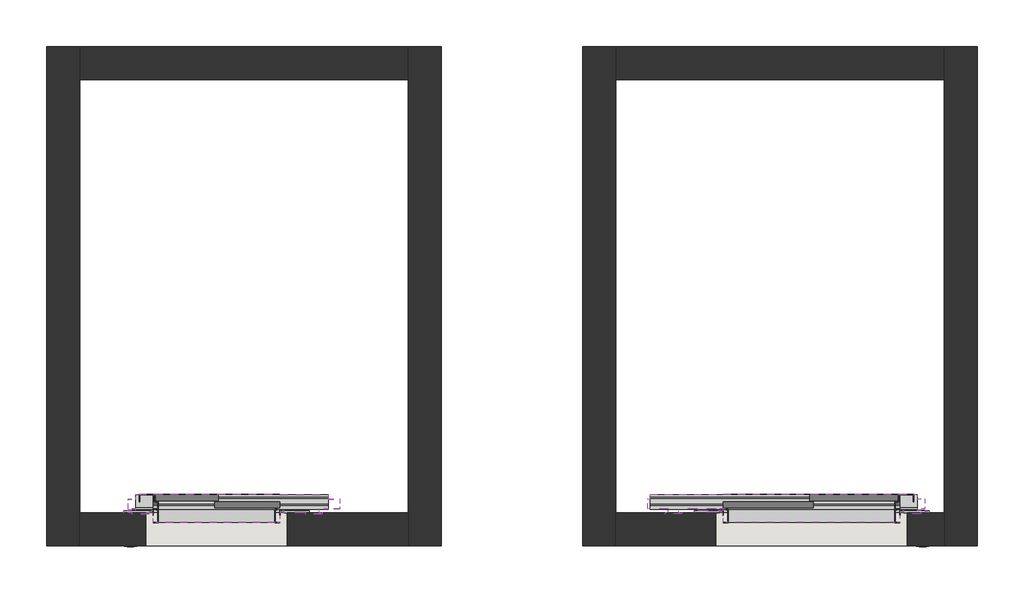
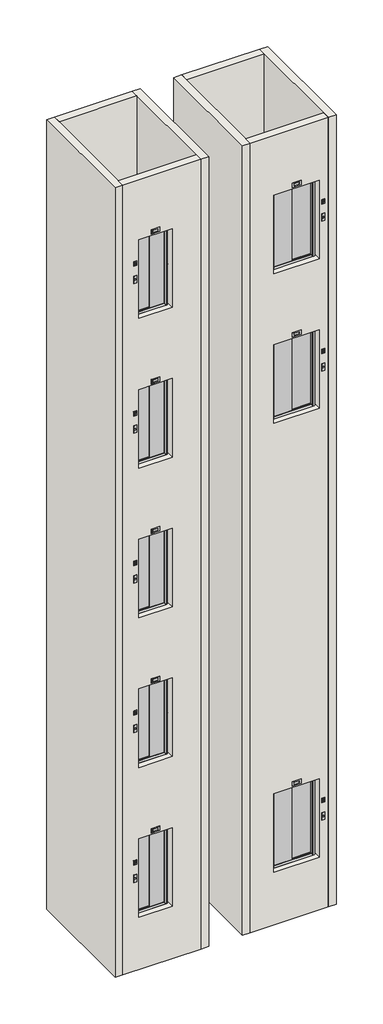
# One storey, incomplete: 10 proxies, 8 walls.
"""IFC4 building model written with IfcOpenShell, lengths in millimetres."""

from ifc_helpers import new_model, si_unit, frame, origin, place, context, project, spatial, polyline, outline, extrude, faceted_brep, transform, mapped, element, save
from components import generic_models_df95d3e8, generic_models_b9712135

model = new_model("IFC4")

# Units and contexts
model_context = context("Model", 3, world=origin())
ifc_project = project(units=[si_unit("LENGTHUNIT", "METRE", prefix="MILLI")], contexts=[model_context])

# Site, building, storey
site = spatial("IfcSite", under=ifc_project)
building = spatial("IfcBuilding", under=site)
storey = spatial("IfcBuildingStorey", under=building, Name="Уровень 1", Elevation=0.0)

# Proxies
placement = place(None, origin())
generic_models_shape = generic_models_df95d3e8(model_context)
element("IfcBuildingElementProxy", 1, Name="SHLZ_Дверь_0621Е_0411 : SHLZ_Дверь_0621Е_0411", ObjectType="SHLZ_Дверь_0621Е_0411 : SHLZ_Дверь_0621Е_0411", at=placement, inside=storey, context=model_context, shape_type="MappedRepresentation", body=[
    mapped(generic_models_shape, transform((5959.8086741, -3917.209494, 12000.0), x_axis=(1.0, 0.0, 0.0), y_axis=(0.0, 1.0, 0.0), z_axis=(0.0, 0.0, 1.0))),
])
element("IfcBuildingElementProxy", 2, Name="SHLZ_Дверь_0621Е_0411 : SHLZ_Дверь_0621Е_0411", ObjectType="SHLZ_Дверь_0621Е_0411 : SHLZ_Дверь_0621Е_0411", at=placement, inside=storey, context=model_context, shape_type="MappedRepresentation", body=[
    mapped(generic_models_shape, transform((5959.8086741, -3917.209494, 16000.0), x_axis=(1.0, 0.0, 0.0), y_axis=(0.0, 1.0, 0.0), z_axis=(0.0, 0.0, 1.0))),
])
element("IfcBuildingElementProxy", 3, Name="SHLZ_Дверь_0621Е_0411 : SHLZ_Дверь_0621Е_0411", ObjectType="SHLZ_Дверь_0621Е_0411 : SHLZ_Дверь_0621Е_0411", at=placement, inside=storey, context=model_context, shape_type="MappedRepresentation", body=[
    mapped(generic_models_shape, transform((5959.8086741, -3917.209494, 0.0), x_axis=(1.0, 0.0, 0.0), y_axis=(0.0, 1.0, 0.0), z_axis=(0.0, 0.0, 1.0))),
])
element("IfcBuildingElementProxy", 4, Name="SHLZ_Дверь_0621Е_0411 : SHLZ_Дверь_0621Е_0411", ObjectType="SHLZ_Дверь_0621Е_0411 : SHLZ_Дверь_0621Е_0411", at=placement, inside=storey, context=model_context, shape_type="MappedRepresentation", body=[
    mapped(generic_models_shape, transform((5959.8086741, -3917.209494, 16000.0), x_axis=(1.0, 0.0, 0.0), y_axis=(0.0, 1.0, 0.0), z_axis=(0.0, 0.0, 1.0))),
])
generic_models_2_shape = generic_models_b9712135(model_context)
element("IfcBuildingElementProxy", 5, Name="SHLZ_Дверь_0621Е_0411 : SHLZ_Дверь_0621Е_0411", ObjectType="SHLZ_Дверь_0621Е_0411 : SHLZ_Дверь_0621Е_0411", at=placement, inside=storey, context=model_context, shape_type="MappedRepresentation", body=[
    mapped(generic_models_2_shape, transform((2387.9856165, -3917.209494, 4000.0), x_axis=(1.0, 0.0, 0.0), y_axis=(0.0, 1.0, 0.0), z_axis=(0.0, 0.0, 1.0))),
])
element("IfcBuildingElementProxy", 6, Name="SHLZ_Дверь_0621Е_0411 : SHLZ_Дверь_0621Е_0411", ObjectType="SHLZ_Дверь_0621Е_0411 : SHLZ_Дверь_0621Е_0411", at=placement, inside=storey, context=model_context, shape_type="MappedRepresentation", body=[
    mapped(generic_models_2_shape, transform((2387.9856165, -3917.209494, 8000.0), x_axis=(1.0, 0.0, 0.0), y_axis=(0.0, 1.0, 0.0), z_axis=(0.0, 0.0, 1.0))),
])
element("IfcBuildingElementProxy", 7, Name="SHLZ_Дверь_0621Е_0411 : SHLZ_Дверь_0621Е_0411", ObjectType="SHLZ_Дверь_0621Е_0411 : SHLZ_Дверь_0621Е_0411", at=placement, inside=storey, context=model_context, shape_type="MappedRepresentation", body=[
    mapped(generic_models_2_shape, transform((2387.9856165, -3917.209494, 12000.0), x_axis=(1.0, 0.0, 0.0), y_axis=(0.0, 1.0, 0.0), z_axis=(0.0, 0.0, 1.0))),
])
element("IfcBuildingElementProxy", 8, Name="SHLZ_Дверь_0621Е_0411 : SHLZ_Дверь_0621Е_0411", ObjectType="SHLZ_Дверь_0621Е_0411 : SHLZ_Дверь_0621Е_0411", at=placement, inside=storey, context=model_context, shape_type="MappedRepresentation", body=[
    mapped(generic_models_2_shape, transform((2387.9856165, -3917.209494, 16000.0), x_axis=(1.0, 0.0, 0.0), y_axis=(0.0, 1.0, 0.0), z_axis=(0.0, 0.0, 1.0))),
])
element("IfcBuildingElementProxy", 9, Name="SHLZ_Дверь_0621Е_0411 : SHLZ_Дверь_0621Е_0411", ObjectType="SHLZ_Дверь_0621Е_0411 : SHLZ_Дверь_0621Е_0411", at=placement, inside=storey, context=model_context, shape_type="MappedRepresentation", body=[
    mapped(generic_models_2_shape, transform((2387.9856165, -3917.209494, 0.0), x_axis=(1.0, 0.0, 0.0), y_axis=(0.0, 1.0, 0.0), z_axis=(0.0, 0.0, 1.0))),
])
element("IfcBuildingElementProxy", 10, Name="SHLZ_Дверь_0621Е_0411 : SHLZ_Дверь_0621Е_0411", ObjectType="SHLZ_Дверь_0621Е_0411 : SHLZ_Дверь_0621Е_0411", at=placement, inside=storey, context=model_context, shape_type="MappedRepresentation", body=[
    mapped(generic_models_2_shape, transform((2387.9856165, -3917.209494, 16000.0), x_axis=(1.0, 0.0, 0.0), y_axis=(0.0, 1.0, 0.0), z_axis=(0.0, 0.0, 1.0))),
])

# Walls
element("IfcWall", 11, ObjectType="Типовой - 200мм", at=placement, inside=storey, context=model_context, shape_type="Brep", body=[
    faceted_brep([(3537.9856165, -1117.209494, -1400.0), (3537.9856165, -1317.209494, -1400.0), (3537.9856165, -3917.209494, -1400.0), (3537.9856165, -4117.209494, -1400.0), (3537.9856165, -4117.209494, 19700.0), (3537.9856165, -3917.209494, 19700.0), (3537.9856165, -1317.209494, 19700.0), (3537.9856165, -1117.209494, 19700.0), (3737.9856165, -1117.209494, -1400.0), (3737.9856165, -1117.209494, 19700.0), (3737.9856165, -4117.209494, 19700.0), (3737.9856165, -4117.209494, -1400.0)], [[[0, 1, 2, 3, 4, 5, 6, 7]], [[8, 9, 10, 11]], [[3, 2, 1, 0, 8, 11]], [[4, 3, 11, 10]], [[0, 7, 9, 8]], [[7, 6, 5, 4, 10, 9]]]),
])
element("IfcWall", 12, ObjectType="Типовой - 200мм", at=placement, inside=storey, context=model_context, shape_type="Brep", body=[
    faceted_brep([(1367.9856165, -1117.209494, -1400.0), (1367.9856165, -4117.209494, -1400.0), (1367.9856165, -4117.209494, 19700.0), (1367.9856165, -1117.209494, 19700.0), (1567.9856165, -1117.209494, -1400.0), (1567.9856165, -1117.209494, 19700.0), (1567.9856165, -1317.209494, 19700.0), (1567.9856165, -3917.209494, 19700.0), (1567.9856165, -4117.209494, 19700.0), (1567.9856165, -4117.209494, -1400.0), (1567.9856165, -3917.209494, -1400.0), (1567.9856165, -1317.209494, -1400.0)], [[[0, 1, 2, 3]], [[4, 5, 6, 7, 8, 9, 10, 11]], [[1, 0, 4, 11, 10, 9]], [[2, 1, 9, 8]], [[0, 3, 5, 4]], [[3, 2, 8, 7, 6, 5]]]),
])
element("IfcWall", 13, ObjectType="Типовой - 200мм", at=placement, inside=storey, context=model_context, shape_type="Brep", body=[
    faceted_brep([(1567.9856165, -4117.209494, -1400.0), (3537.9856165, -4117.209494, -1400.0), (3537.9856165, -4117.209494, 19700.0), (1567.9856165, -4117.209494, 19700.0), (2297.9856165, -4117.209494, 6250.0), (2477.9856165, -4117.209494, 6250.0), (2477.9856165, -4117.209494, 6150.0), (2297.9856165, -4117.209494, 6150.0), (1851.6856165, -4117.209494, 5055.0), (1851.6856165, -4117.209494, 5095.0), (1891.6856165, -4117.209494, 5095.0), (1891.6856165, -4117.209494, 5055.0), (1851.6856165, -4117.209494, 5520.0), (1891.6856165, -4117.209494, 5520.0), (1891.6856165, -4117.209494, 5480.0), (1851.6856165, -4117.209494, 5480.0), (2812.9856165, -4117.209494, 4000.0), (1962.9856165, -4117.209494, 4000.0), (1962.9856165, -4117.209494, 6100.0), (2812.9856165, -4117.209494, 6100.0), (2297.9856165, -4117.209494, 10250.0), (2477.9856165, -4117.209494, 10250.0), (2477.9856165, -4117.209494, 10150.0), (2297.9856165, -4117.209494, 10150.0), (1851.6856165, -4117.209494, 9055.0), (1851.6856165, -4117.209494, 9095.0), (1891.6856165, -4117.209494, 9095.0), (1891.6856165, -4117.209494, 9055.0), (1851.6856165, -4117.209494, 9520.0), (1891.6856165, -4117.209494, 9520.0), (1891.6856165, -4117.209494, 9480.0), (1851.6856165, -4117.209494, 9480.0), (2812.9856165, -4117.209494, 8000.0), (1962.9856165, -4117.209494, 8000.0), (1962.9856165, -4117.209494, 10100.0), (2812.9856165, -4117.209494, 10100.0), (2297.9856165, -4117.209494, 14250.0), (2477.9856165, -4117.209494, 14250.0), (2477.9856165, -4117.209494, 14150.0), (2297.9856165, -4117.209494, 14150.0), (1851.6856165, -4117.209494, 13055.0), (1851.6856165, -4117.209494, 13095.0), (1891.6856165, -4117.209494, 13095.0), (1891.6856165, -4117.209494, 13055.0), (1851.6856165, -4117.209494, 13520.0), (1891.6856165, -4117.209494, 13520.0), (1891.6856165, -4117.209494, 13480.0), (1851.6856165, -4117.209494, 13480.0), (2812.9856165, -4117.209494, 12000.0), (1962.9856165, -4117.209494, 12000.0), (1962.9856165, -4117.209494, 14100.0), (2812.9856165, -4117.209494, 14100.0), (2297.9856165, -4117.209494, 18250.0), (2477.9856165, -4117.209494, 18250.0), (2477.9856165, -4117.209494, 18150.0), (2297.9856165, -4117.209494, 18150.0), (1851.6856165, -4117.209494, 17055.0), (1851.6856165, -4117.209494, 17095.0), (1891.6856165, -4117.209494, 17095.0), (1891.6856165, -4117.209494, 17055.0), (1851.6856165, -4117.209494, 17520.0), (1891.6856165, -4117.209494, 17520.0), (1891.6856165, -4117.209494, 17480.0), (1851.6856165, -4117.209494, 17480.0), (2812.9856165, -4117.209494, 16000.0), (1962.9856165, -4117.209494, 16000.0), (1962.9856165, -4117.209494, 18100.0), (2812.9856165, -4117.209494, 18100.0), (2297.9856165, -4117.209494, 2250.0), (2477.9856165, -4117.209494, 2250.0), (2477.9856165, -4117.209494, 2150.0), (2297.9856165, -4117.209494, 2150.0), (1851.6856165, -4117.209494, 1055.0), (1851.6856165, -4117.209494, 1095.0), (1891.6856165, -4117.209494, 1095.0), (1891.6856165, -4117.209494, 1055.0), (1851.6856165, -4117.209494, 1520.0), (1891.6856165, -4117.209494, 1520.0), (1891.6856165, -4117.209494, 1480.0), (1851.6856165, -4117.209494, 1480.0), (2812.9856165, -4117.209494, 0.0), (1962.9856165, -4117.209494, 0.0), (1962.9856165, -4117.209494, 2100.0), (2812.9856165, -4117.209494, 2100.0), (3537.9856165, -3917.209494, -1400.0), (1567.9856165, -3917.209494, -1400.0), (1567.9856165, -3917.209494, 19700.0), (3537.9856165, -3917.209494, 19700.0), (2407.9856165, -3917.209494, 6180.0), (2407.9856165, -3917.209494, 6220.0), (2367.9856165, -3917.209494, 6220.0), (2367.9856165, -3917.209494, 6180.0), (1851.6856165, -3917.209494, 5095.0), (1851.6856165, -3917.209494, 5055.0), (1891.6856165, -3917.209494, 5055.0), (1891.6856165, -3917.209494, 5095.0), (1891.6856165, -3917.209494, 5520.0), (1851.6856165, -3917.209494, 5520.0), (1851.6856165, -3917.209494, 5480.0), (1891.6856165, -3917.209494, 5480.0), (1962.9856165, -3917.209494, 4000.0), (2037.9856165, -3917.209494, 4000.0), (2037.9856165, -3917.209494, 3970.0), (2737.9856165, -3917.209494, 3970.0), (2737.9856165, -3917.209494, 4000.0), (2812.9856165, -3917.209494, 4000.0), (2812.9856165, -3917.209494, 6100.0), (1962.9856165, -3917.209494, 6100.0), (2407.9856165, -3917.209494, 10180.0), (2407.9856165, -3917.209494, 10220.0), (2367.9856165, -3917.209494, 10220.0), (2367.9856165, -3917.209494, 10180.0), (1851.6856165, -3917.209494, 9095.0), (1851.6856165, -3917.209494, 9055.0), (1891.6856165, -3917.209494, 9055.0), (1891.6856165, -3917.209494, 9095.0), (1891.6856165, -3917.209494, 9520.0), (1851.6856165, -3917.209494, 9520.0), (1851.6856165, -3917.209494, 9480.0), (1891.6856165, -3917.209494, 9480.0), (1962.9856165, -3917.209494, 8000.0), (2037.9856165, -3917.209494, 8000.0), (2037.9856165, -3917.209494, 7970.0), (2737.9856165, -3917.209494, 7970.0), (2737.9856165, -3917.209494, 8000.0), (2812.9856165, -3917.209494, 8000.0), (2812.9856165, -3917.209494, 10100.0), (1962.9856165, -3917.209494, 10100.0), (2407.9856165, -3917.209494, 14180.0), (2407.9856165, -3917.209494, 14220.0), (2367.9856165, -3917.209494, 14220.0), (2367.9856165, -3917.209494, 14180.0), (1851.6856165, -3917.209494, 13095.0), (1851.6856165, -3917.209494, 13055.0), (1891.6856165, -3917.209494, 13055.0), (1891.6856165, -3917.209494, 13095.0), (1891.6856165, -3917.209494, 13520.0), (1851.6856165, -3917.209494, 13520.0), (1851.6856165, -3917.209494, 13480.0), (1891.6856165, -3917.209494, 13480.0), (1962.9856165, -3917.209494, 12000.0), (2037.9856165, -3917.209494, 12000.0), (2037.9856165, -3917.209494, 11970.0), (2737.9856165, -3917.209494, 11970.0), (2737.9856165, -3917.209494, 12000.0), (2812.9856165, -3917.209494, 12000.0), (2812.9856165, -3917.209494, 14100.0), (1962.9856165, -3917.209494, 14100.0), (2407.9856165, -3917.209494, 18180.0), (2407.9856165, -3917.209494, 18220.0), (2367.9856165, -3917.209494, 18220.0), (2367.9856165, -3917.209494, 18180.0), (1851.6856165, -3917.209494, 17095.0), (1851.6856165, -3917.209494, 17055.0), (1891.6856165, -3917.209494, 17055.0), (1891.6856165, -3917.209494, 17095.0), (1891.6856165, -3917.209494, 17520.0), (1851.6856165, -3917.209494, 17520.0), (1851.6856165, -3917.209494, 17480.0), (1891.6856165, -3917.209494, 17480.0), (1962.9856165, -3917.209494, 16000.0), (2037.9856165, -3917.209494, 16000.0), (2037.9856165, -3917.209494, 15970.0), (2737.9856165, -3917.209494, 15970.0), (2737.9856165, -3917.209494, 16000.0), (2812.9856165, -3917.209494, 16000.0), (2812.9856165, -3917.209494, 18100.0), (1962.9856165, -3917.209494, 18100.0), (2407.9856165, -3917.209494, 2180.0), (2407.9856165, -3917.209494, 2220.0), (2367.9856165, -3917.209494, 2220.0), (2367.9856165, -3917.209494, 2180.0), (1851.6856165, -3917.209494, 1095.0), (1851.6856165, -3917.209494, 1055.0), (1891.6856165, -3917.209494, 1055.0), (1891.6856165, -3917.209494, 1095.0), (1891.6856165, -3917.209494, 1520.0), (1851.6856165, -3917.209494, 1520.0), (1851.6856165, -3917.209494, 1480.0), (1891.6856165, -3917.209494, 1480.0), (1962.9856165, -3917.209494, 0.0), (2037.9856165, -3917.209494, 0.0), (2037.9856165, -3917.209494, -30.0), (2737.9856165, -3917.209494, -30.0), (2737.9856165, -3917.209494, 0.0), (2812.9856165, -3917.209494, 0.0), (2812.9856165, -3917.209494, 2100.0), (1962.9856165, -3917.209494, 2100.0), (2407.9856165, -4037.209494, 6180.0), (2407.9856165, -4037.209494, 6220.0), (2367.9856165, -4037.209494, 6220.0), (2367.9856165, -4037.209494, 6180.0), (2477.9856165, -4037.209494, 6250.0), (2297.9856165, -4037.209494, 6250.0), (2297.9856165, -4037.209494, 6150.0), (2477.9856165, -4037.209494, 6150.0), (2737.9856165, -3977.209494, 4000.0), (2037.9856165, -3977.209494, 4000.0), (2037.9856165, -3977.209494, 3970.0), (2737.9856165, -3977.209494, 3970.0), (2407.9856165, -4037.209494, 10180.0), (2407.9856165, -4037.209494, 10220.0), (2367.9856165, -4037.209494, 10220.0), (2367.9856165, -4037.209494, 10180.0), (2477.9856165, -4037.209494, 10250.0), (2297.9856165, -4037.209494, 10250.0), (2297.9856165, -4037.209494, 10150.0), (2477.9856165, -4037.209494, 10150.0), (2737.9856165, -3977.209494, 8000.0), (2037.9856165, -3977.209494, 8000.0), (2037.9856165, -3977.209494, 7970.0), (2737.9856165, -3977.209494, 7970.0), (2407.9856165, -4037.209494, 14180.0), (2407.9856165, -4037.209494, 14220.0), (2367.9856165, -4037.209494, 14220.0), (2367.9856165, -4037.209494, 14180.0), (2477.9856165, -4037.209494, 14250.0), (2297.9856165, -4037.209494, 14250.0), (2297.9856165, -4037.209494, 14150.0), (2477.9856165, -4037.209494, 14150.0), (2737.9856165, -3977.209494, 12000.0), (2037.9856165, -3977.209494, 12000.0), (2037.9856165, -3977.209494, 11970.0), (2737.9856165, -3977.209494, 11970.0), (2407.9856165, -4037.209494, 18180.0), (2407.9856165, -4037.209494, 18220.0), (2367.9856165, -4037.209494, 18220.0), (2367.9856165, -4037.209494, 18180.0), (2477.9856165, -4037.209494, 18250.0), (2297.9856165, -4037.209494, 18250.0), (2297.9856165, -4037.209494, 18150.0), (2477.9856165, -4037.209494, 18150.0), (2737.9856165, -3977.209494, 16000.0), (2037.9856165, -3977.209494, 16000.0), (2037.9856165, -3977.209494, 15970.0), (2737.9856165, -3977.209494, 15970.0), (2407.9856165, -4037.209494, 2180.0), (2407.9856165, -4037.209494, 2220.0), (2367.9856165, -4037.209494, 2220.0), (2367.9856165, -4037.209494, 2180.0), (2477.9856165, -4037.209494, 2250.0), (2297.9856165, -4037.209494, 2250.0), (2297.9856165, -4037.209494, 2150.0), (2477.9856165, -4037.209494, 2150.0), (2737.9856165, -3977.209494, 0.0), (2037.9856165, -3977.209494, 0.0), (2037.9856165, -3977.209494, -30.0), (2737.9856165, -3977.209494, -30.0)], [[[0, 1, 2, 3], [4, 5, 6, 7], [8, 9, 10, 11], [12, 13, 14, 15], [16, 17, 18, 19], [20, 21, 22, 23], [24, 25, 26, 27], [28, 29, 30, 31], [32, 33, 34, 35], [36, 37, 38, 39], [40, 41, 42, 43], [44, 45, 46, 47], [48, 49, 50, 51], [52, 53, 54, 55], [56, 57, 58, 59], [60, 61, 62, 63], [64, 65, 66, 67], [68, 69, 70, 71], [72, 73, 74, 75], [76, 77, 78, 79], [80, 81, 82, 83]], [[84, 85, 86, 87], [88, 89, 90, 91], [92, 93, 94, 95], [96, 97, 98, 99], [100, 101, 102, 103, 104, 105, 106, 107], [108, 109, 110, 111], [112, 113, 114, 115], [116, 117, 118, 119], [120, 121, 122, 123, 124, 125, 126, 127], [128, 129, 130, 131], [132, 133, 134, 135], [136, 137, 138, 139], [140, 141, 142, 143, 144, 145, 146, 147], [148, 149, 150, 151], [152, 153, 154, 155], [156, 157, 158, 159], [160, 161, 162, 163, 164, 165, 166, 167], [168, 169, 170, 171], [172, 173, 174, 175], [176, 177, 178, 179], [180, 181, 182, 183, 184, 185, 186, 187]], [[1, 0, 85, 84]], [[0, 3, 86, 85]], [[2, 1, 84, 87]], [[3, 2, 87, 86]], [[88, 188, 189, 89]], [[89, 189, 190, 90]], [[90, 190, 191, 91]], [[188, 88, 91, 191]], [[192, 193, 194, 195], [189, 188, 191, 190]], [[193, 192, 5, 4]], [[194, 193, 4, 7]], [[195, 194, 7, 6]], [[192, 195, 6, 5]], [[8, 93, 92, 9]], [[9, 92, 95, 10]], [[10, 95, 94, 11]], [[93, 8, 11, 94]], [[96, 13, 12, 97]], [[98, 15, 14, 99]], [[13, 96, 99, 14]], [[97, 12, 15, 98]], [[100, 17, 16, 105, 104, 196, 197, 101]], [[18, 107, 106, 19]], [[17, 100, 107, 18]], [[105, 16, 19, 106]], [[198, 199, 103, 102]], [[101, 197, 198, 102]], [[197, 196, 199, 198]], [[196, 104, 103, 199]], [[108, 200, 201, 109]], [[109, 201, 202, 110]], [[110, 202, 203, 111]], [[200, 108, 111, 203]], [[204, 205, 206, 207], [201, 200, 203, 202]], [[205, 204, 21, 20]], [[206, 205, 20, 23]], [[207, 206, 23, 22]], [[204, 207, 22, 21]], [[24, 113, 112, 25]], [[25, 112, 115, 26]], [[26, 115, 114, 27]], [[113, 24, 27, 114]], [[116, 29, 28, 117]], [[118, 31, 30, 119]], [[29, 116, 119, 30]], [[117, 28, 31, 118]], [[120, 33, 32, 125, 124, 208, 209, 121]], [[34, 127, 126, 35]], [[33, 120, 127, 34]], [[125, 32, 35, 126]], [[210, 211, 123, 122]], [[121, 209, 210, 122]], [[209, 208, 211, 210]], [[208, 124, 123, 211]], [[128, 212, 213, 129]], [[129, 213, 214, 130]], [[130, 214, 215, 131]], [[212, 128, 131, 215]], [[216, 217, 218, 219], [213, 212, 215, 214]], [[217, 216, 37, 36]], [[218, 217, 36, 39]], [[219, 218, 39, 38]], [[216, 219, 38, 37]], [[40, 133, 132, 41]], [[41, 132, 135, 42]], [[42, 135, 134, 43]], [[133, 40, 43, 134]], [[136, 45, 44, 137]], [[138, 47, 46, 139]], [[45, 136, 139, 46]], [[137, 44, 47, 138]], [[140, 49, 48, 145, 144, 220, 221, 141]], [[50, 147, 146, 51]], [[49, 140, 147, 50]], [[145, 48, 51, 146]], [[222, 223, 143, 142]], [[141, 221, 222, 142]], [[221, 220, 223, 222]], [[220, 144, 143, 223]], [[148, 224, 225, 149]], [[149, 225, 226, 150]], [[150, 226, 227, 151]], [[224, 148, 151, 227]], [[228, 229, 230, 231], [225, 224, 227, 226]], [[229, 228, 53, 52]], [[230, 229, 52, 55]], [[231, 230, 55, 54]], [[228, 231, 54, 53]], [[56, 153, 152, 57]], [[57, 152, 155, 58]], [[58, 155, 154, 59]], [[153, 56, 59, 154]], [[156, 61, 60, 157]], [[158, 63, 62, 159]], [[61, 156, 159, 62]], [[157, 60, 63, 158]], [[160, 65, 64, 165, 164, 232, 233, 161]], [[66, 167, 166, 67]], [[65, 160, 167, 66]], [[165, 64, 67, 166]], [[234, 235, 163, 162]], [[161, 233, 234, 162]], [[233, 232, 235, 234]], [[232, 164, 163, 235]], [[168, 236, 237, 169]], [[169, 237, 238, 170]], [[170, 238, 239, 171]], [[236, 168, 171, 239]], [[240, 241, 242, 243], [237, 236, 239, 238]], [[241, 240, 69, 68]], [[242, 241, 68, 71]], [[243, 242, 71, 70]], [[240, 243, 70, 69]], [[72, 173, 172, 73]], [[73, 172, 175, 74]], [[74, 175, 174, 75]], [[173, 72, 75, 174]], [[176, 77, 76, 177]], [[178, 79, 78, 179]], [[77, 176, 179, 78]], [[177, 76, 79, 178]], [[180, 81, 80, 185, 184, 244, 245, 181]], [[82, 187, 186, 83]], [[81, 180, 187, 82]], [[185, 80, 83, 186]], [[246, 247, 183, 182]], [[181, 245, 246, 182]], [[245, 244, 247, 246]], [[244, 184, 183, 247]]]),
])
element("IfcWall", 14, ObjectType="Типовой - 200мм", at=placement, inside=storey, context=model_context, shape_type="SweptSolid", body=[
    extrude(outline(polyline([(3537.9856165, -1317.209494), (1567.9856165, -1317.209494), (1567.9856165, -1117.209494), (3537.9856165, -1117.209494), (3537.9856165, -1317.209494)])), frame((0.0, 0.0, -1400.0), z_axis=(0.0, 0.0, 1.0), x_axis=(1.0, 0.0, 0.0)), (0.0, 0.0, 1.0), 21100.0),
])
element("IfcWall", 15, ObjectType="Типовой - 200мм", at=placement, inside=storey, context=model_context, shape_type="Brep", body=[
    faceted_brep([(6754.8086741, -1117.209494, -1400.0), (6754.8086741, -1317.209494, -1400.0), (6754.8086741, -3917.209494, -1400.0), (6754.8086741, -4117.209494, -1400.0), (6754.8086741, -4117.209494, 19700.0), (6754.8086741, -3917.209494, 19700.0), (6754.8086741, -1317.209494, 19700.0), (6754.8086741, -1117.209494, 19700.0), (6954.8086741, -1117.209494, -1400.0), (6954.8086741, -1117.209494, 19700.0), (6954.8086741, -4117.209494, 19700.0), (6954.8086741, -4117.209494, -1400.0)], [[[0, 1, 2, 3, 4, 5, 6, 7]], [[8, 9, 10, 11]], [[3, 2, 1, 0, 8, 11]], [[4, 3, 11, 10]], [[0, 7, 9, 8]], [[7, 6, 5, 4, 10, 9]]]),
])
element("IfcWall", 16, ObjectType="Типовой - 200мм", at=placement, inside=storey, context=model_context, shape_type="Brep", body=[
    faceted_brep([(4584.8086741, -1117.209494, -1400.0), (4584.8086741, -4117.209494, -1400.0), (4584.8086741, -4117.209494, 19700.0), (4584.8086741, -1117.209494, 19700.0), (4784.8086741, -1117.209494, -1400.0), (4784.8086741, -1117.209494, 19700.0), (4784.8086741, -1317.209494, 19700.0), (4784.8086741, -3917.209494, 19700.0), (4784.8086741, -4117.209494, 19700.0), (4784.8086741, -4117.209494, -1400.0), (4784.8086741, -3917.209494, -1400.0), (4784.8086741, -1317.209494, -1400.0)], [[[0, 1, 2, 3]], [[4, 5, 6, 7, 8, 9, 10, 11]], [[1, 0, 4, 11, 10, 9]], [[2, 1, 9, 8]], [[0, 3, 5, 4]], [[3, 2, 8, 7, 6, 5]]]),
])
element("IfcWall", 17, ObjectType="Типовой - 200мм", at=placement, inside=storey, context=model_context, shape_type="Brep", body=[
    faceted_brep([(4784.8086741, -4117.209494, -1400.0), (6754.8086741, -4117.209494, -1400.0), (6754.8086741, -4117.209494, 19700.0), (4784.8086741, -4117.209494, 19700.0), (5869.8086741, -4117.209494, 14250.0), (6049.8086741, -4117.209494, 14250.0), (6049.8086741, -4117.209494, 14150.0), (5869.8086741, -4117.209494, 14150.0), (6646.1086741, -4117.209494, 13095.0), (6646.1086741, -4117.209494, 13055.0), (6606.1086741, -4117.209494, 13055.0), (6606.1086741, -4117.209494, 13095.0), (6606.1086741, -4117.209494, 13520.0), (6646.1086741, -4117.209494, 13520.0), (6646.1086741, -4117.209494, 13480.0), (6606.1086741, -4117.209494, 13480.0), (6534.8086741, -4117.209494, 12000.0), (5384.8086741, -4117.209494, 12000.0), (5384.8086741, -4117.209494, 14100.0), (6534.8086741, -4117.209494, 14100.0), (5869.8086741, -4117.209494, 18250.0), (6049.8086741, -4117.209494, 18250.0), (6049.8086741, -4117.209494, 18150.0), (5869.8086741, -4117.209494, 18150.0), (6646.1086741, -4117.209494, 17095.0), (6646.1086741, -4117.209494, 17055.0), (6606.1086741, -4117.209494, 17055.0), (6606.1086741, -4117.209494, 17095.0), (6606.1086741, -4117.209494, 17520.0), (6646.1086741, -4117.209494, 17520.0), (6646.1086741, -4117.209494, 17480.0), (6606.1086741, -4117.209494, 17480.0), (6534.8086741, -4117.209494, 16000.0), (5384.8086741, -4117.209494, 16000.0), (5384.8086741, -4117.209494, 18100.0), (6534.8086741, -4117.209494, 18100.0), (5869.8086741, -4117.209494, 2250.0), (6049.8086741, -4117.209494, 2250.0), (6049.8086741, -4117.209494, 2150.0), (5869.8086741, -4117.209494, 2150.0), (6646.1086741, -4117.209494, 1095.0), (6646.1086741, -4117.209494, 1055.0), (6606.1086741, -4117.209494, 1055.0), (6606.1086741, -4117.209494, 1095.0), (6606.1086741, -4117.209494, 1520.0), (6646.1086741, -4117.209494, 1520.0), (6646.1086741, -4117.209494, 1480.0), (6606.1086741, -4117.209494, 1480.0), (6534.8086741, -4117.209494, 0.0), (5384.8086741, -4117.209494, 0.0), (5384.8086741, -4117.209494, 2100.0), (6534.8086741, -4117.209494, 2100.0), (6754.8086741, -3917.209494, -1400.0), (4784.8086741, -3917.209494, -1400.0), (4784.8086741, -3917.209494, 19700.0), (6754.8086741, -3917.209494, 19700.0), (5979.8086741, -3917.209494, 14180.0), (5979.8086741, -3917.209494, 14220.0), (5939.8086741, -3917.209494, 14220.0), (5939.8086741, -3917.209494, 14180.0), (6646.1086741, -3917.209494, 13055.0), (6646.1086741, -3917.209494, 13095.0), (6606.1086741, -3917.209494, 13095.0), (6606.1086741, -3917.209494, 13055.0), (6646.1086741, -3917.209494, 13520.0), (6606.1086741, -3917.209494, 13520.0), (6606.1086741, -3917.209494, 13480.0), (6646.1086741, -3917.209494, 13480.0), (5384.8086741, -3917.209494, 12000.0), (5459.8086741, -3917.209494, 12000.0), (5459.8086741, -3917.209494, 11970.0), (6459.8086741, -3917.209494, 11970.0), (6459.8086741, -3917.209494, 12000.0), (6534.8086741, -3917.209494, 12000.0), (6534.8086741, -3917.209494, 14100.0), (5384.8086741, -3917.209494, 14100.0), (5979.8086741, -3917.209494, 18180.0), (5979.8086741, -3917.209494, 18220.0), (5939.8086741, -3917.209494, 18220.0), (5939.8086741, -3917.209494, 18180.0), (6646.1086741, -3917.209494, 17055.0), (6646.1086741, -3917.209494, 17095.0), (6606.1086741, -3917.209494, 17095.0), (6606.1086741, -3917.209494, 17055.0), (6646.1086741, -3917.209494, 17520.0), (6606.1086741, -3917.209494, 17520.0), (6606.1086741, -3917.209494, 17480.0), (6646.1086741, -3917.209494, 17480.0), (5384.8086741, -3917.209494, 16000.0), (5459.8086741, -3917.209494, 16000.0), (5459.8086741, -3917.209494, 15970.0), (6459.8086741, -3917.209494, 15970.0), (6459.8086741, -3917.209494, 16000.0), (6534.8086741, -3917.209494, 16000.0), (6534.8086741, -3917.209494, 18100.0), (5384.8086741, -3917.209494, 18100.0), (5979.8086741, -3917.209494, 2180.0), (5979.8086741, -3917.209494, 2220.0), (5939.8086741, -3917.209494, 2220.0), (5939.8086741, -3917.209494, 2180.0), (6646.1086741, -3917.209494, 1055.0), (6646.1086741, -3917.209494, 1095.0), (6606.1086741, -3917.209494, 1095.0), (6606.1086741, -3917.209494, 1055.0), (6646.1086741, -3917.209494, 1520.0), (6606.1086741, -3917.209494, 1520.0), (6606.1086741, -3917.209494, 1480.0), (6646.1086741, -3917.209494, 1480.0), (5384.8086741, -3917.209494, 0.0), (5459.8086741, -3917.209494, 0.0), (5459.8086741, -3917.209494, -30.0), (6459.8086741, -3917.209494, -30.0), (6459.8086741, -3917.209494, 0.0), (6534.8086741, -3917.209494, 0.0), (6534.8086741, -3917.209494, 2100.0), (5384.8086741, -3917.209494, 2100.0), (5979.8086741, -4037.209494, 14180.0), (5979.8086741, -4037.209494, 14220.0), (5939.8086741, -4037.209494, 14220.0), (5939.8086741, -4037.209494, 14180.0), (6049.8086741, -4037.209494, 14250.0), (5869.8086741, -4037.209494, 14250.0), (5869.8086741, -4037.209494, 14150.0), (6049.8086741, -4037.209494, 14150.0), (6459.8086741, -3977.209494, 12000.0), (5459.8086741, -3977.209494, 12000.0), (5459.8086741, -3977.209494, 11970.0), (6459.8086741, -3977.209494, 11970.0), (5979.8086741, -4037.209494, 18180.0), (5979.8086741, -4037.209494, 18220.0), (5939.8086741, -4037.209494, 18220.0), (5939.8086741, -4037.209494, 18180.0), (6049.8086741, -4037.209494, 18250.0), (5869.8086741, -4037.209494, 18250.0), (5869.8086741, -4037.209494, 18150.0), (6049.8086741, -4037.209494, 18150.0), (6459.8086741, -3977.209494, 16000.0), (5459.8086741, -3977.209494, 16000.0), (5459.8086741, -3977.209494, 15970.0), (6459.8086741, -3977.209494, 15970.0), (5979.8086741, -4037.209494, 2180.0), (5979.8086741, -4037.209494, 2220.0), (5939.8086741, -4037.209494, 2220.0), (5939.8086741, -4037.209494, 2180.0), (6049.8086741, -4037.209494, 2250.0), (5869.8086741, -4037.209494, 2250.0), (5869.8086741, -4037.209494, 2150.0), (6049.8086741, -4037.209494, 2150.0), (6459.8086741, -3977.209494, 0.0), (5459.8086741, -3977.209494, 0.0), (5459.8086741, -3977.209494, -30.0), (6459.8086741, -3977.209494, -30.0)], [[[0, 1, 2, 3], [4, 5, 6, 7], [8, 9, 10, 11], [12, 13, 14, 15], [16, 17, 18, 19], [20, 21, 22, 23], [24, 25, 26, 27], [28, 29, 30, 31], [32, 33, 34, 35], [36, 37, 38, 39], [40, 41, 42, 43], [44, 45, 46, 47], [48, 49, 50, 51]], [[52, 53, 54, 55], [56, 57, 58, 59], [60, 61, 62, 63], [64, 65, 66, 67], [68, 69, 70, 71, 72, 73, 74, 75], [76, 77, 78, 79], [80, 81, 82, 83], [84, 85, 86, 87], [88, 89, 90, 91, 92, 93, 94, 95], [96, 97, 98, 99], [100, 101, 102, 103], [104, 105, 106, 107], [108, 109, 110, 111, 112, 113, 114, 115]], [[1, 0, 53, 52]], [[0, 3, 54, 53]], [[2, 1, 52, 55]], [[3, 2, 55, 54]], [[56, 116, 117, 57]], [[57, 117, 118, 58]], [[58, 118, 119, 59]], [[116, 56, 59, 119]], [[120, 121, 122, 123], [117, 116, 119, 118]], [[121, 120, 5, 4]], [[122, 121, 4, 7]], [[123, 122, 7, 6]], [[120, 123, 6, 5]], [[8, 61, 60, 9]], [[61, 8, 11, 62]], [[62, 11, 10, 63]], [[9, 60, 63, 10]], [[64, 13, 12, 65]], [[66, 15, 14, 67]], [[65, 12, 15, 66]], [[13, 64, 67, 14]], [[68, 17, 16, 73, 72, 124, 125, 69]], [[18, 75, 74, 19]], [[17, 68, 75, 18]], [[73, 16, 19, 74]], [[126, 127, 71, 70]], [[69, 125, 126, 70]], [[125, 124, 127, 126]], [[124, 72, 71, 127]], [[76, 128, 129, 77]], [[77, 129, 130, 78]], [[78, 130, 131, 79]], [[128, 76, 79, 131]], [[132, 133, 134, 135], [129, 128, 131, 130]], [[133, 132, 21, 20]], [[134, 133, 20, 23]], [[135, 134, 23, 22]], [[132, 135, 22, 21]], [[24, 81, 80, 25]], [[81, 24, 27, 82]], [[82, 27, 26, 83]], [[25, 80, 83, 26]], [[84, 29, 28, 85]], [[86, 31, 30, 87]], [[85, 28, 31, 86]], [[29, 84, 87, 30]], [[88, 33, 32, 93, 92, 136, 137, 89]], [[34, 95, 94, 35]], [[33, 88, 95, 34]], [[93, 32, 35, 94]], [[138, 139, 91, 90]], [[89, 137, 138, 90]], [[137, 136, 139, 138]], [[136, 92, 91, 139]], [[96, 140, 141, 97]], [[97, 141, 142, 98]], [[98, 142, 143, 99]], [[140, 96, 99, 143]], [[144, 145, 146, 147], [141, 140, 143, 142]], [[145, 144, 37, 36]], [[146, 145, 36, 39]], [[147, 146, 39, 38]], [[144, 147, 38, 37]], [[40, 101, 100, 41]], [[101, 40, 43, 102]], [[102, 43, 42, 103]], [[41, 100, 103, 42]], [[104, 45, 44, 105]], [[106, 47, 46, 107]], [[105, 44, 47, 106]], [[45, 104, 107, 46]], [[108, 49, 48, 113, 112, 148, 149, 109]], [[50, 115, 114, 51]], [[49, 108, 115, 50]], [[113, 48, 51, 114]], [[150, 151, 111, 110]], [[109, 149, 150, 110]], [[149, 148, 151, 150]], [[148, 112, 111, 151]]]),
])
element("IfcWall", 18, ObjectType="Типовой - 200мм", at=placement, inside=storey, context=model_context, shape_type="SweptSolid", body=[
    extrude(outline(polyline([(6754.8086741, -1317.209494), (4784.8086741, -1317.209494), (4784.8086741, -1117.209494), (6754.8086741, -1117.209494), (6754.8086741, -1317.209494)])), frame((0.0, 0.0, -1400.0), z_axis=(0.0, 0.0, 1.0), x_axis=(1.0, 0.0, 0.0)), (0.0, 0.0, 1.0), 21100.0),
])

save(model, "model.ifc")
